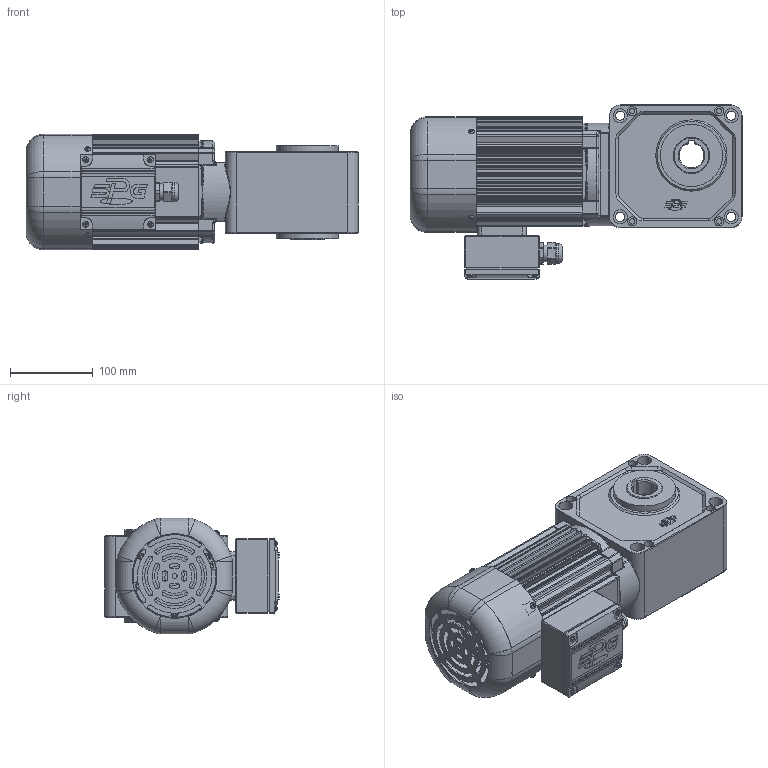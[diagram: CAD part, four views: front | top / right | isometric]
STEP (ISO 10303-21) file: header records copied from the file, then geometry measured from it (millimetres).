
FILE_DESCRIPTION(/* description */ (''),/* implementation_level */ '2;1');
FILE_NAME(/* name */ 'Z:\동력 3D 파일\PCH30_0.4kW_Brake_3D.stp',/* time_stamp */ '2021-11-09T09:47:44+09:00',/* author */ ('jaebok'),/* organization */ (''),/* preprocessor_version */ 'ST-DEVELOPER v18.1',/* originating_system */ 'Autodesk Inventor 2022',/* authorisation */ '');
FILE_SCHEMA (('AUTOMOTIVE_DESIGN { 1 0 10303 214 3 1 1 }'));
Products named in the file (1): 부품25
Bounding box: 400.5 x 210 x 139.4 mm (x, y, z)
Volume: 2369506.5 mm3; surface area: 650117.6 mm2
Topology: 2 solids, 18 shells, 2025 faces, 5166 edges, 3235 vertices
Faces by surface type: plane 905, cylinder 784, torus 111, cone 101, bspline 96, sphere 28
Full cylindrical faces by diameter (mm): 1.5 x2, 2 x4, 3 x8, 3.242 x5, 3.25 x1, 3.3 x4, 3.6 x4, 3.8 x3, 4 x25, 4.2 x8, 5 x19, 5.8 x2, 5.9 x3, 6 x14, 6.4 x1, 6.5 x10, 7 x12, 7.9 x6, 8 x3, 8.5 x1, 8.7 x1, 10 x1, 11 x8, 12.5 x1, 15 x1, 17 x12, 18 x1, 20 x2, 21 x1, 23.6 x1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
Entity records: 68501 total; most frequent: CARTESIAN_POINT 17160, DIRECTION 10781, ORIENTED_EDGE 10216, EDGE_CURVE 5108, AXIS2_PLACEMENT_3D 4135, VERTEX_POINT 3232, LINE 2511, VECTOR 2511
